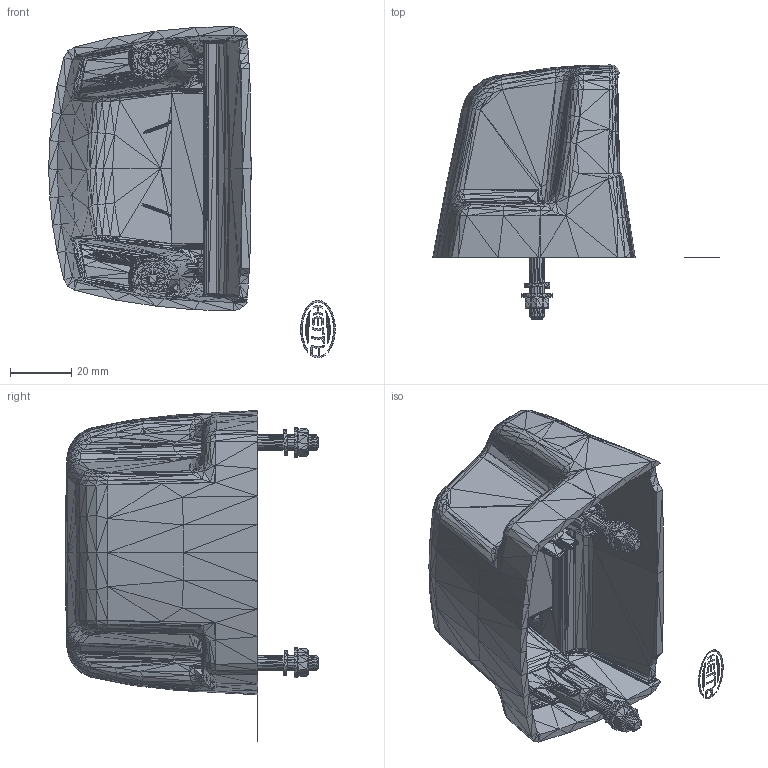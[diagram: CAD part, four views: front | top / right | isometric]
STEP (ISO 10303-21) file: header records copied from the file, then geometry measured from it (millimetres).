
FILE_DESCRIPTION(('HOOPS Exchange Step'),'2;1');
FILE_NAME('\\?\C:\Users\moscju1\HELLA GmbH & Co. KGaA\A-SOE-MARKETING TEAM SITE - Documents\SOE_Marketing_Internal\Projects\Microsites\04 PRODUKTE\ADDITIONAL MATERIAL - 3D DATA - mounting instructions\3_Rear lighting\6_3_LED licence plate lamp 010 278\HELLA_3D_data_LED_.stp','2022-01-21T10:26:23+01:00',('moscju1'),('Unknown organisation'),'HOOPS Exchange 2021.2','HOOPS Exchange','Unknown authorisation');
FILE_SCHEMA( ('AUTOMOTIVE_DESIGN { 1 0 10303 214 1 1 1 1 }') );
Length unit declared in the file: millimetre
Products named in the file (1): 010278-02_VG1_1
Bounding box: 93.72 x 83.04 x 108.28 mm (x, y, z)
Surface area: 48332.4 mm2
Topology: 1 solids, 731 shells, 10670 faces, 20864 edges, 10708 vertices
Faces by surface type: plane 10670
Entity records: 97723 total; most frequent: CARTESIAN_POINT 21379, DIRECTION 21342, AXIS2_PLACEMENT_3D 10671, PLANE 10670, POLY_LOOP 10670, FACE_OUTER_BOUND 10670, FACE_SURFACE 10670, OVER_RIDING_STYLED_ITEM 1524
